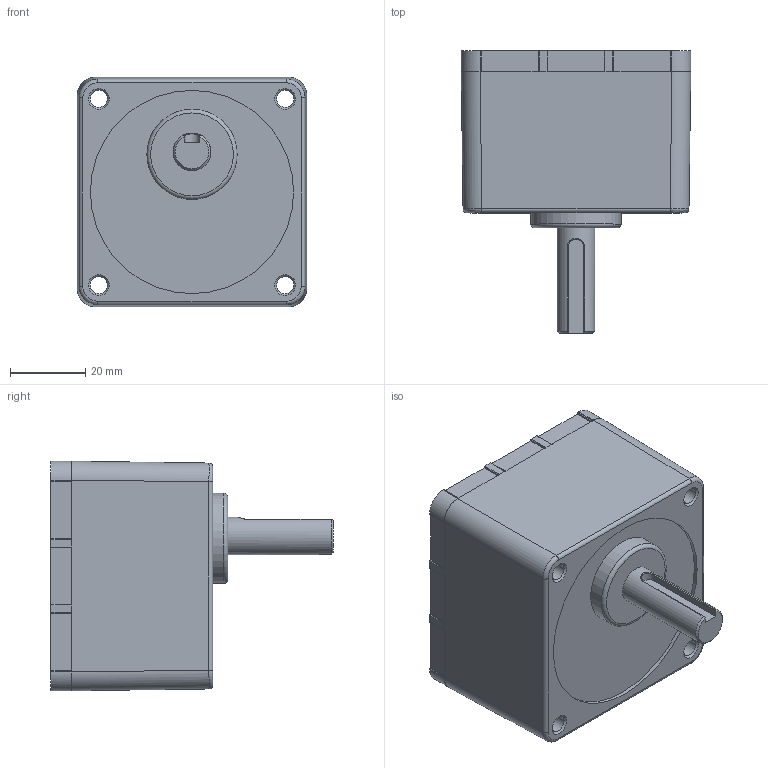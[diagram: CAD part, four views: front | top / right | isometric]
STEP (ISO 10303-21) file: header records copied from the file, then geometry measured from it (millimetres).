
FILE_DESCRIPTION((''),'2;1');
FILE_NAME('E:\2공장-도면\3D\STEP FILE\K6H200B.stp','2014-08-18T15:43:48',('輺'),(''),'Autodesk Inventor 2008','Autodesk Inventor 2008','');
FILE_SCHEMA(('CONFIG_CONTROL_DESIGN'));
Length unit declared in the file: millimetre
Products named in the file (1): 부품51
Bounding box: 61 x 75 x 61 mm (x, y, z)
Volume: 149511.2 mm3; surface area: 21499.2 mm2
Topology: 1 solids, 1 shells, 151 faces, 371 edges, 231 vertices
Faces by surface type: plane 86, cylinder 50, bspline 7, cone 7, torus 1
Full cylindrical faces by diameter (mm): 4.5 x4, 5 x4, 6 x1, 10 x1, 24 x1, 54 x2
Entity records: 4906 total; most frequent: CARTESIAN_POINT 1187, DIRECTION 739, ORIENTED_EDGE 700, EDGE_CURVE 350, AXIS2_PLACEMENT_3D 256, VERTEX_POINT 230, VECTOR 227, LINE 227
